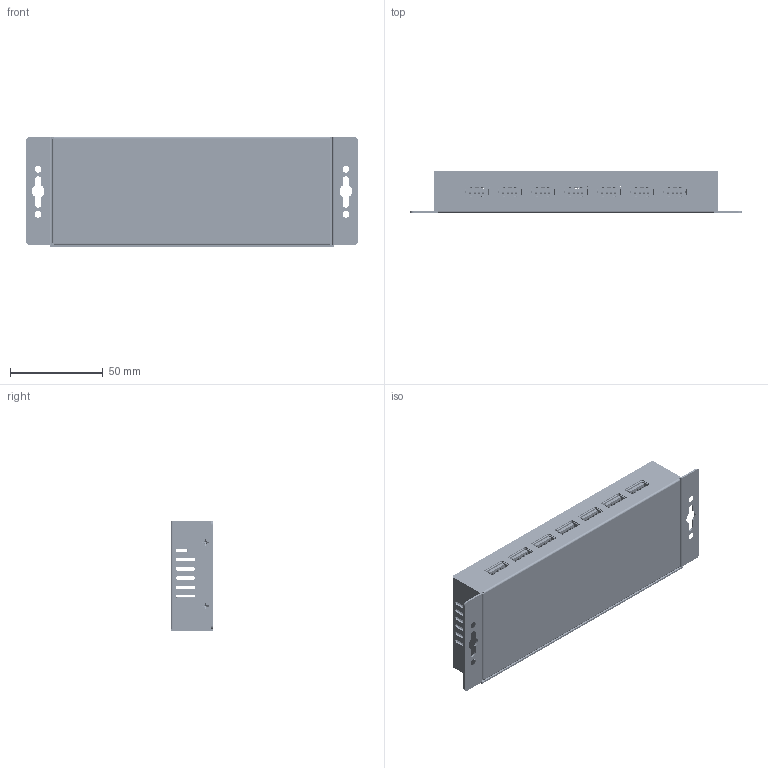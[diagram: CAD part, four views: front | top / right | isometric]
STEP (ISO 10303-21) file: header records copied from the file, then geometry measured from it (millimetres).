
FILE_DESCRIPTION(/* description */ (''),/* implementation_level */ '2;1');
FILE_NAME(/* name */ 'C:/Users/Leo/Desktop/AA CoolGear CADs/CG-7U3DS/CG-7U3DS Model3D LPV1.step',/* time_stamp */ '2021-06-14T15:02:25-04:00',/* author */ (''),/* organization */ (''),/* preprocessor_version */ 'ST-DEVELOPER v18.1',/* originating_system */ 'Autodesk Translation Framework v10.9.0.1377',/* authorisation */ '');
FILE_SCHEMA (('AUTOMOTIVE_DESIGN { 1 0 10303 214 3 1 1 }'));
Products named in the file (1): FusionComponent
Bounding box: 178.7 x 23 x 59.32 mm (x, y, z)
Volume: 48833.5 mm3; surface area: 94311.3 mm2
Topology: 1 solids, 79 shells, 10031 faces, 29389 edges, 18870 vertices
Faces by surface type: plane 7744, cylinder 2080, bspline 132, cone 68, sphere 5, torus 2
Full cylindrical faces by diameter (mm): 1.679 x1, 2.14 x2, 2.16 x1, 2.35 x16, 2.998 x1, 3 x24, 3.2 x4, 3.35 x1, 3.54 x1, 3.643 x1, 4.2 x4, 5.04 x2, 6 x1
Entity records: 339910 total; most frequent: CARTESIAN_POINT 69985, ORIENTED_EDGE 58756, DIRECTION 52875, EDGE_CURVE 29378, LINE 24653, VECTOR 24653, VERTEX_POINT 18870, AXIS2_PLACEMENT_3D 14111
